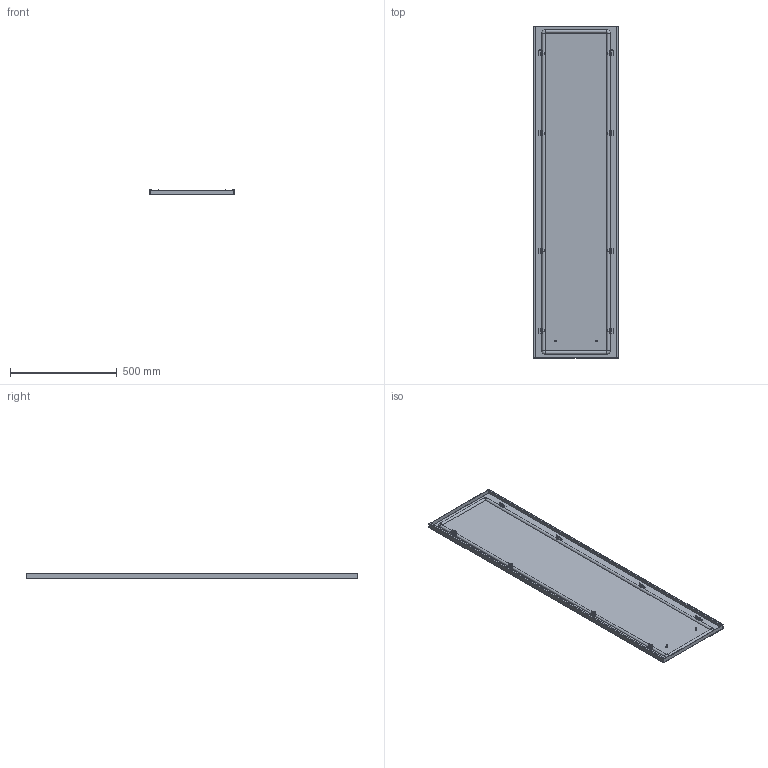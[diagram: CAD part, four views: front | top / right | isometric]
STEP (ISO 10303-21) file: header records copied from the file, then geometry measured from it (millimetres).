
FILE_DESCRIPTION(('Open CASCADE Model'),'2;1');
FILE_NAME('Open CASCADE Shape Model','2025-02-07T16:30:46',('Author'),( 'Open CASCADE'),'Open CASCADE STEP processor 7.8','Open CASCADE 7.8' ,'Unknown');
FILE_SCHEMA(('AUTOMOTIVE_DESIGN { 1 0 10303 214 1 1 1 1 }'));
Length unit declared in the file: millimetre
Products named in the file (10): Compound1; Compound2; Compound3; Solid1; Solid2; Solid3; Solid4; Solid5; Solid6; Solid7
Assembly tree (40 placements, depth 4):
  Compound1
    Compound2
      Compound3
        Solid1
        Solid2  x4
      Solid3
    Solid4  x8
    Solid5  x8
    Solid6  x8
    Solid7  x8
Bounding box: 394 x 1555 x 23.8 mm (x, y, z)
Volume: 1415269.4 mm3; surface area: 1611387.8 mm2
Topology: 38 solids, 38 shells, 1655 faces, 4040 edges, 2460 vertices
Faces by surface type: plane 1043, cone 308, cylinder 268, torus 26, bspline 8, revolution 2
Full cylindrical faces by diameter (mm): 5 x16, 6 x132, 7.5 x4, 8 x16, 10 x8, 11.57 x8
Entity records: 7801 total; most frequent: CARTESIAN_POINT 1491, DIRECTION 1263, ORIENTED_EDGE 1244, EDGE_CURVE 622, AXIS2_PLACEMENT_3D 426, LINE 409, VECTOR 409, VERTEX_POINT 387
